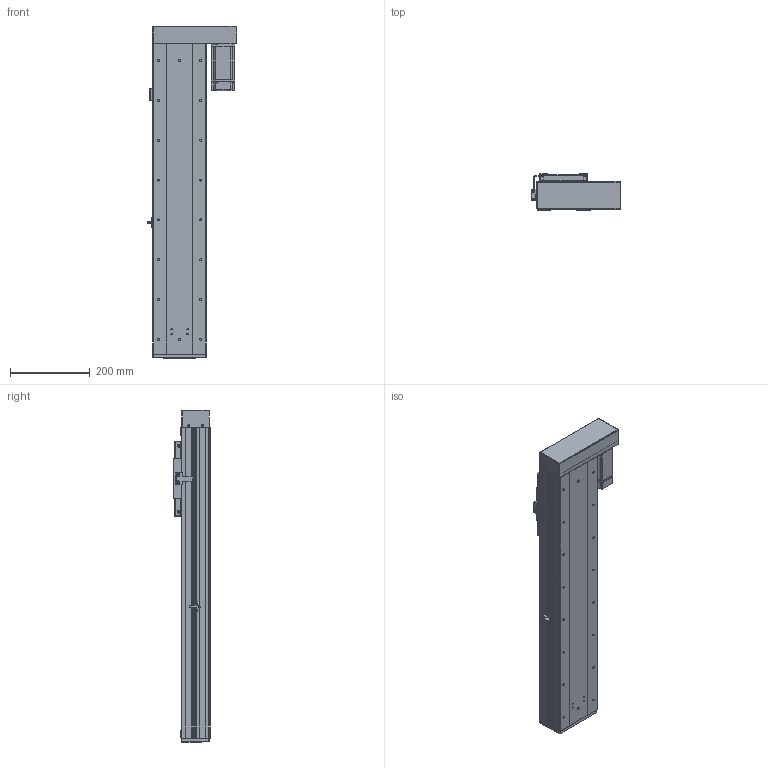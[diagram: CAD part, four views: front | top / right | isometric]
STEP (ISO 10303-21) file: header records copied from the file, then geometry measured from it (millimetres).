
FILE_DESCRIPTION (( 'STEP AP203' ), '1' );
FILE_NAME ('RY140F-L2020-300-RK.SLDASM_500.step', '2021-03-02T08:50:16', ( '盈信电脑' ), ( '东莞市道滘镇水果街19号' ), 'SwSTEP 2.0', 'SolidWorks 2012', '' );
FILE_SCHEMA (( 'CONFIG_CONTROL_DESIGN' ));
Products named in the file (19): RY140F-L2020-300-RK.SLDASM_500; RY140F-酘衵殏萇儂欶(400W); RY140F-詩湍揤え; RY140F-转折折电机座（7001）; 侐源滅袉蝶; RY140F-左右折电机安装板(400W M5); 覜茼ん672; 侂狟400W侜督萇儂; RY140F-672覜茼んえ; RY100F-詩湍揤踡謫; RY140F-后盖板(铝件）; 15; RY140F-直连型材铝滑块(16丝杆); RY140F-300-RK蛌殏詩湍_500; RY140F-直连型材铝滑块连接座; RY140F-滅鳥奻裔; RY140F-詩湍幗謫粣; RY140F-300-RK倰第奻裔啣_500; RY140F-300-RK倰第菁釱_500
Assembly tree (23 placements, depth 3):
  RY140F-L2020-300-RK.SLDASM_500
    RY140F-300-RK倰第菁釱_500
    RY140F-300-RK倰第奻裔啣_500  x2
    RY140F-300-RK蛌殏詩湍_500
    RY140F-直连型材铝滑块连接座
    RY140F-滅鳥奻裔
    RY140F-詩湍幗謫粣
    RY100F-詩湍揤踡謫
    RY140F-直连型材铝滑块(16丝杆)
    RY140F-后盖板(铝件）
    侂狟400W侜督萇儂
      15
    覜茼ん672
    RY140F-672覜茼んえ
    RY140F-詩湍揤え  x2
    侐源滅袉蝶  x4
    RY140F-转折折电机座（7001）
    RY140F-左右折电机安装板(400W M5)
    RY140F-酘衵殏萇儂欶(400W)
Bounding box: 224.7 x 91 x 834 mm (x, y, z)
Volume: 3500747.9 mm3; surface area: 1242741.8 mm2
Topology: 22 solids, 22 shells, 2013 faces, 5493 edges, 3490 vertices
Faces by surface type: cylinder 976, plane 789, cone 218, bspline 26, torus 4
Entity records: 63619 total; most frequent: CARTESIAN_POINT 13483, DIRECTION 10174, ORIENTED_EDGE 9890, EDGE_CURVE 4945, AXIS2_PLACEMENT_3D 3645, VERTEX_POINT 3230, LINE 2884, VECTOR 2884
